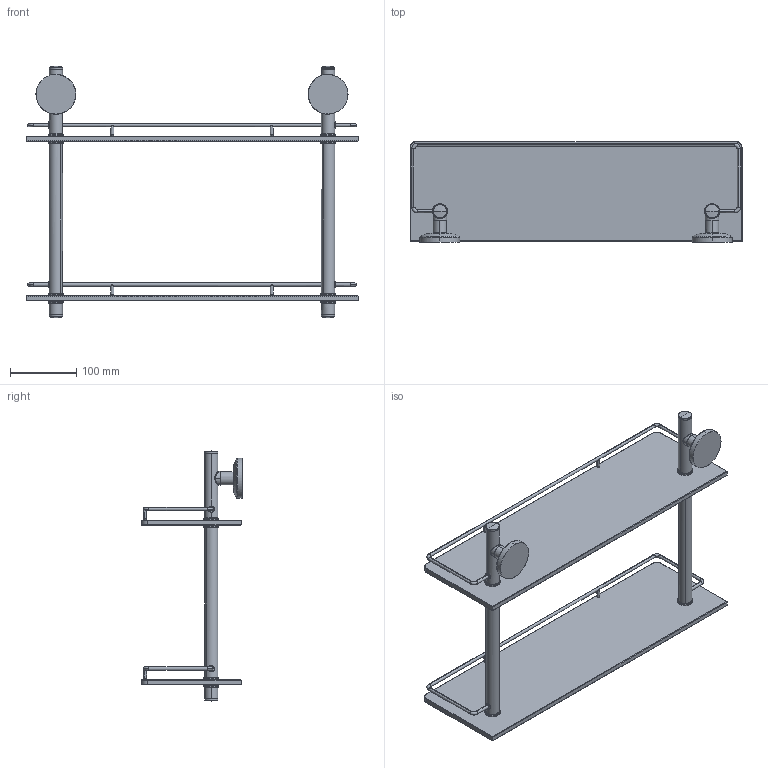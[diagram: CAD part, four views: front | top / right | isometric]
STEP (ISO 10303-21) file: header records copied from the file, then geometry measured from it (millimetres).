
FILE_DESCRIPTION(('THIS FILE CONTAINS SOME STEP INSTANCES'),'1');
FILE_NAME('sta_064.stp','2015-12-09T10:15:27',('UNDEFINED'),('UNDEFINED'),'T-FLEX CAD STEP converter','T-FLEX CAD','');
FILE_SCHEMA(('CONFIG_CONTROL_DESIGN'));
Length unit declared in the file: metre
Products named in the file (6): 砱鋋_23; 砱鋋_24; 3D 鐨飹懤艜_49
Bounding box: 500 x 151.9 x 378.4 mm (x, y, z)
Volume: 1539051.3 mm3; surface area: 412435.3 mm2
Topology: 6 solids, 10 shells, 374 faces, 914 edges, 564 vertices
Faces by surface type: cylinder 132, plane 74, cone 64, bspline 56, torus 40, sphere 8
Entity records: 27147 total; most frequent: CARTESIAN_POINT 19981, ORIENTED_EDGE 1780, DIRECTION 1048, EDGE_CURVE 890, VERTEX_POINT 564, EDGE_LOOP 410, AXIS2_PLACEMENT_3D 400, ADVANCED_FACE 374
